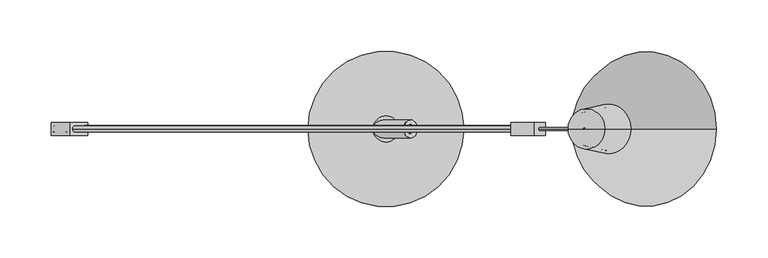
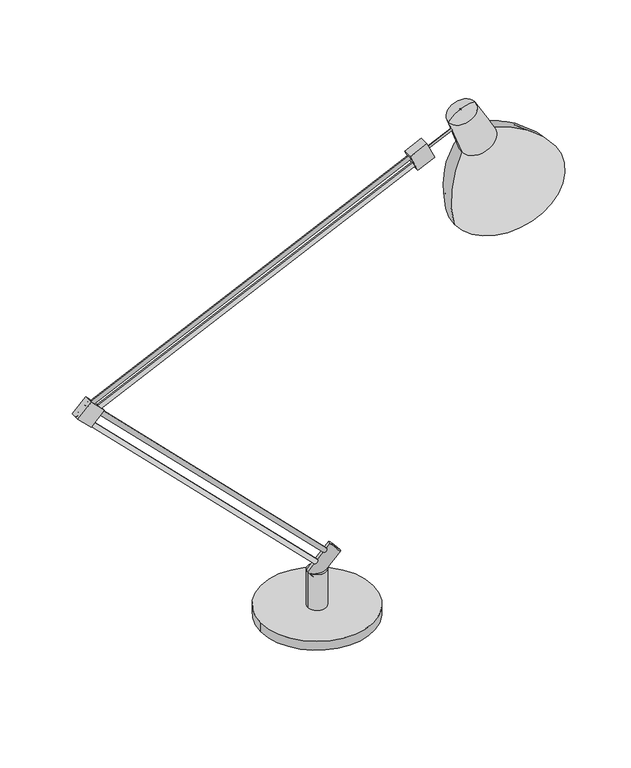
"""IFC4 building model written with IfcOpenShell, lengths in millimetres: light fixture geometry, M_Lampada da tavolo Luxo : 100 watt Incandescente."""

from ifc_helpers import new_model, si_unit, point, frame, origin, origin_with_axes, origin_2d, place, context, project, spatial, polyline, circle_curve, ellipse_curve, trimmed, segment, composite_curve, outline, extrude, source, transform, mapped, element, save
from ifc_brep_helpers import plane_surface, cylinder_surface, revolved_surface, advanced_brep


def light_fixture_4844b612(model_context):
    return source(origin(), model_context, "Body", "SolidModel", [
        advanced_brep(
        [(323.1317321, 0.0, 555.0810324), (186.1348137, 0.0, 491.1983202), (195.9295385, 0.0, 591.5959935), (239.9267246, 0.0, 612.1122183), (321.1881543, 0.0, 553.9589072), (188.2437192, 0.0, 491.965899), (237.1689067, 0.0, 610.5199914), (198.9219463, 0.0, 592.6851409), (211.7689067, 0.0, 654.5140819), (181.547323, 0.0, 640.421526), (195.4961647, 0.0, 651.5995573), (194.2398953, 0.0, 651.0137493), (194.5181424, 0.0, 653.6969331), (193.2618729, 0.0, 653.111125), (213.940532, 0.0, 657.1216244), (178.1539358, 0.0, 640.4340605)],
        [
            (0, 1, circle_curve(frame((254.6332729, 0.0, 523.1396763), z_axis=(-0.4226182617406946, 0.0, 0.9063077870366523), x_axis=(-0.9063077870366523, 0.0, -0.4226182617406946)), 75.5796874)),
            (1, 2, circle_curve(frame((334.1432405, 0.0, 527.4353443), z_axis=(0.0, 1.0, 0.0), x_axis=(1.0, 0.0, 0.0)), 152.3798423)),
            (2, 3, circle_curve(frame((217.9281316, 0.0, 601.8541059), z_axis=(0.4226182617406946, 0.0, -0.9063077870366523), x_axis=(-0.9063077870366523, 0.0, -0.4226182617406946)), 24.2727619)),
            (3, 0, circle_curve(frame((200.2345783, 0.0, 464.9927096), z_axis=(0.0, 1.0, 0.0), x_axis=(-0.6427876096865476, 0.0, -0.7660444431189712)), 152.3798423)),
            (1, 0, circle_curve(frame((254.6332729, 0.0, 523.1396763), z_axis=(-0.4226182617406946, 0.0, 0.9063077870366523), x_axis=(-0.9063077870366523, 0.0, -0.4226182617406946)), 75.5796874)),
            (3, 2, circle_curve(frame((217.9281316, 0.0, 601.8541059), z_axis=(0.4226182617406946, 0.0, -0.9063077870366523), x_axis=(-0.9063077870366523, 0.0, -0.4226182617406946)), 24.2727619)),
            (4, 5, circle_curve(frame((254.7159368, 0.0, 522.9624031), z_axis=(-0.4226182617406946, 0.0, 0.9063077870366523), x_axis=(-0.9063077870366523, 0.0, -0.4226182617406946)), 73.3439771)),
            (5, 1),
            (0, 4),
            (5, 4, circle_curve(frame((254.7159368, 0.0, 522.9624031), z_axis=(-0.4226182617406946, 0.0, 0.9063077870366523), x_axis=(-0.9063077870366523, 0.0, -0.4226182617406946)), 73.3439771)),
            (6, 7, circle_curve(frame((218.0454265, 0.0, 601.6025661), z_axis=(-0.4226182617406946, 0.0, 0.9063077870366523), x_axis=(-0.9063077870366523, 0.0, -0.4226182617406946)), 21.1004258)),
            (7, 5, circle_curve(frame((336.5004074, 0.0, 527.1734369), z_axis=(0.0, -1.0, 0.0), x_axis=(1.0, 0.0, 0.0)), 152.3798423)),
            (4, 6, circle_curve(frame((198.9200533, 0.0, 463.0186641), z_axis=(0.0, -1.0, 0.0), x_axis=(-0.6427876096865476, 0.0, -0.7660444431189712)), 152.3798423)),
            (7, 6, circle_curve(frame((218.0454265, 0.0, 601.6025661), z_axis=(-0.4226182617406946, 0.0, 0.9063077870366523), x_axis=(-0.9063077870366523, 0.0, -0.4226182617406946)), 21.1004258)),
            (8, 9, circle_curve(frame((196.6581149, 0.0, 647.4678039), z_axis=(-0.4226182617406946, 0.0, 0.9063077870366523), x_axis=(-0.9063077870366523, 0.0, -0.4226182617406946)), 16.672914)),
            (9, 7),
            (6, 8),
            (9, 8, circle_curve(frame((196.6581149, 0.0, 647.4678039), z_axis=(-0.4226182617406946, 0.0, 0.9063077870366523), x_axis=(-0.9063077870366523, 0.0, -0.4226182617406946)), 16.672914)),
            (10, 11, circle_curve(frame((194.86803, 0.0, 651.3066533), z_axis=(-0.4226182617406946, 0.0, 0.9063077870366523), x_axis=(-0.9063077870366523, 0.0, -0.4226182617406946)), 0.69307)),
            (11, 9, circle_curve(frame((201.2583854, 0.0, 629.7027384), z_axis=(0.0, -1.0, 0.0), x_axis=(1.0, 0.0, 0.0)), 22.4369871)),
            (8, 10, circle_curve(frame((207.3099477, 0.0, 632.5246282), z_axis=(0.0, -1.0, 0.0), x_axis=(-0.6427876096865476, 0.0, -0.7660444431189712)), 22.4369871)),
            (11, 10, circle_curve(frame((194.86803, 0.0, 651.3066533), z_axis=(-0.4226182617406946, 0.0, 0.9063077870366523), x_axis=(-0.9063077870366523, 0.0, -0.4226182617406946)), 0.69307)),
            (12, 13, circle_curve(frame((193.8900076, 0.0, 653.404029), z_axis=(-0.4226182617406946, 0.0, 0.9063077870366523), x_axis=(-0.9063077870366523, 0.0, -0.4226182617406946)), 0.69307)),
            (13, 11),
            (10, 12),
            (13, 12, circle_curve(frame((193.8900076, 0.0, 653.404029), z_axis=(-0.4226182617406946, 0.0, 0.9063077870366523), x_axis=(-0.9063077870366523, 0.0, -0.4226182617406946)), 0.69307)),
            (14, 15, circle_curve(frame((196.0472339, 0.0, 648.7778424), z_axis=(-0.4226182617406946, 0.0, 0.9063077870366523), x_axis=(-0.9063077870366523, 0.0, -0.4226182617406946)), 19.74307)),
            (15, 13, circle_curve(frame((205.2310579, 0.0, 623.5058043), z_axis=(0.0, 1.0, 0.0), x_axis=(1.0, 0.0, 0.0)), 31.9333118)),
            (12, 14, circle_curve(frame((209.5034899, 0.0, 625.4980721), z_axis=(0.0, 1.0, 0.0), x_axis=(-0.6427876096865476, 0.0, -0.7660444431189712)), 31.9333118)),
            (15, 14, circle_curve(frame((196.0472339, 0.0, 648.7778424), z_axis=(-0.4226182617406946, 0.0, 0.9063077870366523), x_axis=(-0.9063077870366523, 0.0, -0.4226182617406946)), 19.74307)),
            (2, 15),
            (14, 3),
        ],
        [
            revolved_surface(trimmed(ellipse_curve(frame((334.1432405, 0.0, 527.4353443), z_axis=(0.0, -1.0, 0.0), x_axis=(1.0, 0.0, 0.0)), 152.3798423, 152.3798423), [point((195.9295385, 0.0, 591.5959935))], [point((186.1348137, 0.0, 491.1983202))], True, "CARTESIAN"), (147.4850388, 0.0, 752.9198057), (0.4226182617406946, 0.0, -0.9063077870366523)),
            revolved_surface(polyline([(186.1348137, 0.0, 491.1983202), (188.2437192, 0.0, 491.965899)]), (147.4850388, 0.0, 752.9198057), (0.4226182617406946, 0.0, -0.9063077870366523)),
            revolved_surface(trimmed(ellipse_curve(frame((336.5004074, 0.0, 527.1734369), z_axis=(0.0, 1.0, 0.0), x_axis=(1.0, 0.0, 0.0)), 152.3798423, 152.3798423), [point((188.2437192, 0.0, 491.965899))], [point((198.9219463, 0.0, 592.6851409))], True, "CARTESIAN"), (147.4850388, 0.0, 752.9198057), (0.4226182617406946, 0.0, -0.9063077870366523)),
            revolved_surface(polyline([(198.9219463, 0.0, 592.6851409), (181.547323, 0.0, 640.421526)]), (147.4850388, 0.0, 752.9198057), (0.4226182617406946, 0.0, -0.9063077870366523)),
            revolved_surface(trimmed(ellipse_curve(frame((201.2583854, 0.0, 629.7027384), z_axis=(0.0, 1.0, 0.0), x_axis=(1.0, 0.0, 0.0)), 22.4369871, 22.4369871), [point((181.547323, 0.0, 640.421526))], [point((194.2398953, 0.0, 651.0137493))], True, "CARTESIAN"), (147.4850388, 0.0, 752.9198057), (0.4226182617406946, 0.0, -0.9063077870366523)),
            revolved_surface(polyline([(194.23989521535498, 0.0, 651.0137492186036), (193.26187283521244, 0.0, 653.1111249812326)]), (147.4850388, 0.0, 752.9198057), (0.4226182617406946, 0.0, -0.9063077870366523)),
            revolved_surface(trimmed(ellipse_curve(frame((205.2310579, 0.0, 623.5058043), z_axis=(0.0, -1.0, 0.0), x_axis=(1.0, 0.0, 0.0)), 31.9333118, 31.9333118), [point((193.2618729, 0.0, 653.111125))], [point((178.1539358, 0.0, 640.4340605))], True, "CARTESIAN"), (147.4850388, 0.0, 752.9198057), (0.4226182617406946, 0.0, -0.9063077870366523)),
            revolved_surface(polyline([(178.1539358, 0.0, 640.4340605), (195.9295385, 0.0, 591.5959935)]), (147.4850388, 0.0, 752.9198057), (0.4226182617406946, 0.0, -0.9063077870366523)),
        ],
        [
            (0, [[1, 2, 3, 4]]),
            (0, [[5, -4, 6, -2]]),
            (1, [[7, 8, -1, 9]]),
            (1, [[10, -9, -5, -8]]),
            (2, [[11, 12, -7, 13]]),
            (2, [[14, -13, -10, -12]]),
            (3, [[15, 16, -11, 17]]),
            (3, [[18, -17, -14, -16]]),
            (4, [[19, 20, -15, 21]]),
            (4, [[22, -21, -18, -20]]),
            (5, [[23, 24, -19, 25]]),
            (5, [[26, -25, -22, -24]]),
            (6, [[27, 28, -23, 29]]),
            (6, [[30, -29, -26, -28]]),
            (7, [[-3, 31, -27, 32]]),
            (7, [[-6, -32, -30, -31]]),
        ],
    ),
        advanced_brep(
        [(185.4701526, 0.0, 628.751947), (184.1283396, 0.0, 631.6294742), (184.7992461, 0.0, 630.1907106), (150.9398259, 0.0, 612.6501912), (149.5980129, 0.0, 615.5277185), (150.2689194, 0.0, 614.0889548)],
        [
            (0, 1, circle_curve(frame((184.7992461, 0.0, 630.1907106), z_axis=(0.9063077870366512, 0.0, 0.4226182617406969), x_axis=(-0.4226182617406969, 0.0, 0.9063077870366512)), 1.5875)),
            (1, 2),
            (2, 0),
            (1, 0, circle_curve(frame((184.7992461, 0.0, 630.1907106), z_axis=(0.9063077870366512, 0.0, 0.4226182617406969), x_axis=(-0.4226182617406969, 0.0, 0.9063077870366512)), 1.5875)),
            (3, 4, circle_curve(frame((150.2689194, 0.0, 614.0889548), z_axis=(0.9063077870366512, 0.0, 0.4226182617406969), x_axis=(-0.4226182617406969, 0.0, 0.9063077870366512)), 1.5875)),
            (4, 1),
            (0, 3),
            (4, 3, circle_curve(frame((150.2689194, 0.0, 614.0889548), z_axis=(0.9063077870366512, 0.0, 0.4226182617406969), x_axis=(-0.4226182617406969, 0.0, 0.9063077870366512)), 1.5875)),
            (5, 4),
            (3, 5),
        ],
        [
            plane_surface(frame((184.7992461, 0.0, 630.1907106), z_axis=(0.9063077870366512, 0.0, 0.4226182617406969), x_axis=(-0.4226182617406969, 0.0, 0.9063077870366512))),
            cylinder_surface(frame((189.6922676, 0.0, 632.472364), z_axis=(-0.9063077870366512, 0.0, -0.4226182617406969), x_axis=(-0.4226182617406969, 0.0, 0.9063077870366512)), 1.5875),
            plane_surface(frame((150.2689194, 0.0, 614.0889548), z_axis=(-0.9063077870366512, 0.0, -0.4226182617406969), x_axis=(-0.4226182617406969, 0.0, 0.9063077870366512))),
        ],
        [
            (0, [[1, 2, 3]]),
            (0, [[4, -3, -2]]),
            (1, [[5, 6, -1, 7]]),
            (1, [[8, -7, -4, -6]]),
            (2, [[9, -5, 10]]),
            (2, [[-10, -8, -9]]),
        ],
    ),
        extrude(outline(polyline([(0.0, -25.1467906), (0.0, 0.0), (12.7, 0.0), (12.7, -25.1467906), (0.0, -25.1467906)])), frame((133.1279926, -6.35, 591.3454151), z_axis=(-0.42261826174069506, 0.0, 0.906307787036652), x_axis=(0.0, 1.0, 0.0)), (0.0, 0.0, 1.0), 25.4),
        advanced_brep(
        [(141.620863, 0.0, 602.3121594), (142.9626776, 0.0, 599.4346289), (140.2790485, 0.0, 605.18969), (-297.1050895, 0.0, 401.2341168), (-294.4214605, 0.0, 395.4790558), (-295.763275, 0.0, 398.3565863)],
        [
            (0, 1),
            (1, 2, circle_curve(frame((141.620863, 0.0, 602.3121594), z_axis=(0.9063077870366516, 0.0, 0.42261826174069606), x_axis=(0.42261826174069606, 0.0, -0.9063077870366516)), 3.1750037)),
            (2, 0),
            (2, 1, circle_curve(frame((141.620863, 0.0, 602.3121594), z_axis=(0.9063077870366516, 0.0, 0.42261826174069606), x_axis=(0.42261826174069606, 0.0, -0.9063077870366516)), 3.1750037)),
            (3, 4, circle_curve(frame((-295.763275, 0.0, 398.3565863), z_axis=(-0.9063077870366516, 0.0, -0.42261826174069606), x_axis=(0.42261826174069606, 0.0, -0.9063077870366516)), 3.1750037)),
            (4, 5),
            (5, 3),
            (4, 3, circle_curve(frame((-295.763275, 0.0, 398.3565863), z_axis=(-0.9063077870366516, 0.0, -0.42261826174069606), x_axis=(0.42261826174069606, 0.0, -0.9063077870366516)), 3.1750037)),
            (1, 4),
            (3, 2),
        ],
        [
            plane_surface(frame((141.620863, 0.0, 602.3121594), z_axis=(0.9063077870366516, 0.0, 0.42261826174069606), x_axis=(0.42261826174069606, 0.0, -0.9063077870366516))),
            plane_surface(frame((-295.763275, 0.0, 398.3565863), z_axis=(-0.9063077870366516, 0.0, -0.42261826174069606), x_axis=(0.42261826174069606, 0.0, -0.9063077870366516))),
            cylinder_surface(frame((-295.763275, 0.0, 398.3565863), z_axis=(0.9063077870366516, 0.0, 0.42261826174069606), x_axis=(0.42261826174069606, 0.0, -0.9063077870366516)), 3.1750037),
        ],
        [
            (0, [[1, 2, 3]]),
            (0, [[-3, 4, -1]]),
            (1, [[5, 6, 7]]),
            (1, [[8, -7, -6]]),
            (2, [[-2, 9, -5, 10]]),
            (2, [[-4, -10, -8, -9]]),
        ],
    ),
        advanced_brep(
        [(134.5644626, 0.0, 609.7426468), (132.0426791, 0.0, 615.150629), (133.3035708, 0.0, 612.4466379), (-303.8038477, 0.0, 405.3281466), (-306.3256312, 0.0, 410.7361288), (-304.0805672, 0.0, 408.4910648)],
        [
            (0, 1, circle_curve(frame((133.3035708, 0.0, 612.4466379), z_axis=(0.9063077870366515, 0.0, 0.42261826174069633), x_axis=(-0.42261826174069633, 0.0, 0.9063077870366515)), 2.9835241)),
            (1, 2),
            (2, 0),
            (1, 0, circle_curve(frame((133.3035708, 0.0, 612.4466379), z_axis=(0.9063077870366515, 0.0, 0.42261826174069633), x_axis=(-0.42261826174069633, 0.0, 0.9063077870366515)), 2.9835241)),
            (3, 4, circle_curve(frame((-305.0647395, 0.0, 408.0321377), z_axis=(0.9063077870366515, 0.0, 0.42261826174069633), x_axis=(-0.42261826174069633, 0.0, 0.9063077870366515)), 2.9835241)),
            (4, 1),
            (0, 3),
            (4, 3, circle_curve(frame((-305.0647395, 0.0, 408.0321377), z_axis=(0.9063077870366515, 0.0, 0.42261826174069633), x_axis=(-0.42261826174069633, 0.0, 0.9063077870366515)), 2.9835241)),
            (5, 4),
            (3, 5),
        ],
        [
            plane_surface(frame((133.3035708, 0.0, 612.4466379), z_axis=(0.9063077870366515, 0.0, 0.42261826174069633), x_axis=(-0.42261826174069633, 0.0, 0.9063077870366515))),
            cylinder_surface(frame((-307.9453985, 0.0, 406.6888643), z_axis=(-0.9063077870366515, 0.0, -0.42261826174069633), x_axis=(-0.42261826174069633, 0.0, 0.9063077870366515)), 2.9835241),
            revolved_surface(polyline([(-306.3256312, 0.0, 410.7361288), (-304.0805672, 0.0, 408.4910648)]), (-307.9453985, 0.0, 406.6888643), (-0.9063077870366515, 0.0, -0.42261826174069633)),
        ],
        [
            (0, [[1, 2, 3]]),
            (0, [[4, -3, -2]]),
            (1, [[5, 6, -1, 7]]),
            (1, [[8, -7, -4, -6]]),
            (2, [[9, -5, 10]]),
            (2, [[-10, -8, -9]]),
        ],
    ),
        extrude(outline(polyline([(0.0, -25.3999999), (0.0, 0.0), (12.7, 0.0), (12.7, -25.3999999), (0.0, -25.3999999)])), frame((-327.5068559, -6.35, 395.996329), z_axis=(0.7071067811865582, 0.0, 0.7071067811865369), x_axis=(0.0, 1.0, 0.0)), (0.0, 0.0, 1.0), 25.4),
        advanced_brep(
        [(8.2921221, 0.0, 84.4921221), (12.7822502, 0.0, 88.9822502), (10.5371861, 0.0, 86.7371861), (-315.0856816, 0.0, 407.8699257), (-310.5955535, 0.0, 412.3600538), (-312.8406175, 0.0, 410.1149898)],
        [
            (0, 1, circle_curve(frame((10.5371861, 0.0, 86.7371861), z_axis=(0.7071067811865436, 0.0, -0.7071067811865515), x_axis=(0.7071067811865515, 0.0, 0.7071067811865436)), 3.175)),
            (1, 2),
            (2, 0),
            (1, 0, circle_curve(frame((10.5371861, 0.0, 86.7371861), z_axis=(0.7071067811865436, 0.0, -0.7071067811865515), x_axis=(0.7071067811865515, 0.0, 0.7071067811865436)), 3.175)),
            (3, 4, circle_curve(frame((-312.8406175, 0.0, 410.1149898), z_axis=(0.7071067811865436, 0.0, -0.7071067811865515), x_axis=(0.7071067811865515, 0.0, 0.7071067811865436)), 3.175)),
            (4, 1),
            (0, 3),
            (4, 3, circle_curve(frame((-312.8406175, 0.0, 410.1149898), z_axis=(0.7071067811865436, 0.0, -0.7071067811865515), x_axis=(0.7071067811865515, 0.0, 0.7071067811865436)), 3.175)),
            (5, 4),
            (3, 5),
        ],
        [
            plane_surface(frame((10.5371861, 0.0, 86.7371861), z_axis=(0.7071067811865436, 0.0, -0.7071067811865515), x_axis=(0.7071067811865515, 0.0, 0.7071067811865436))),
            cylinder_surface(frame((13.7727964, 0.0, 83.5015758), z_axis=(-0.7071067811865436, 0.0, 0.7071067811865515), x_axis=(0.7071067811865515, 0.0, 0.7071067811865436)), 3.175),
            plane_surface(frame((-312.8406175, 0.0, 410.1149898), z_axis=(-0.7071067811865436, 0.0, 0.7071067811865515), x_axis=(0.7071067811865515, 0.0, 0.7071067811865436))),
        ],
        [
            (0, [[1, 2, 3]]),
            (0, [[4, -3, -2]]),
            (1, [[5, 6, -1, 7]]),
            (1, [[8, -7, -4, -6]]),
            (2, [[9, -5, 10]]),
            (2, [[-10, -8, -9]]),
        ],
    ),
        advanced_brep(
        [(0.2724925, 0.0, 77.1972367), (-4.2176356, 0.0, 72.7071087), (-327.5068559, 0.0, 395.996329), (-323.0167279, 0.0, 400.4864571), (-1.9725715, 0.0, 74.9521727), (-325.2617919, 0.0, 398.2413931)],
        [
            (0, 1, circle_curve(frame((-1.9725715, 0.0, 74.9521727), z_axis=(-0.70710678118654, 0.0, 0.707106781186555), x_axis=(-0.707106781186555, 0.0, -0.70710678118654)), 3.175)),
            (1, 2),
            (2, 3, circle_curve(frame((-325.2617919, 0.0, 398.2413931), z_axis=(0.70710678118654, 0.0, -0.707106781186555), x_axis=(-0.707106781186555, 0.0, -0.70710678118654)), 3.175)),
            (3, 0),
            (1, 0, circle_curve(frame((-1.9725715, 0.0, 74.9521727), z_axis=(-0.70710678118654, 0.0, 0.707106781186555), x_axis=(-0.707106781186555, 0.0, -0.70710678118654)), 3.175)),
            (3, 2, circle_curve(frame((-325.2617919, 0.0, 398.2413931), z_axis=(0.70710678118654, 0.0, -0.707106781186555), x_axis=(-0.707106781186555, 0.0, -0.70710678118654)), 3.175)),
            (4, 1),
            (0, 4),
            (2, 5),
            (5, 3),
        ],
        [
            cylinder_surface(frame((-1.9725715, 0.0, 74.9521727), z_axis=(0.70710678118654, 0.0, -0.707106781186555), x_axis=(-0.707106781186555, 0.0, -0.70710678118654)), 3.175),
            plane_surface(frame((-1.9725715, 0.0, 74.9521727), z_axis=(0.70710678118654, 0.0, -0.707106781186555), x_axis=(-0.707106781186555, 0.0, -0.70710678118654))),
            plane_surface(frame((-325.2617919, 0.0, 398.2413931), z_axis=(-0.70710678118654, 0.0, 0.707106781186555), x_axis=(-0.707106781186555, 0.0, -0.70710678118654))),
        ],
        [
            (0, [[1, 2, 3, 4]]),
            (0, [[5, -4, 6, -2]]),
            (1, [[7, -1, 8]]),
            (1, [[-8, -5, -7]]),
            (2, [[-3, 9, 10]]),
            (2, [[-6, -10, -9]]),
        ],
    ),
        advanced_brep(
        [(0.0, 0.0, 50.8), (-12.7, 0.0, 63.5), (17.6083644, 0.0, 93.8083644), (30.3083644, 0.0, 81.1083644), (0.0, 0.0, 57.5351921), (-5.9648079, 0.0, 63.5), (26.9407684, 0.0, 84.4759605), (20.9759605, 0.0, 90.4407684)],
        [
            (0, 1, circle_curve(frame((-6.35, 0.0, 57.15), z_axis=(0.7071067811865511, 0.0, 0.707106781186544), x_axis=(-0.707106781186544, 0.0, 0.7071067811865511)), 8.9802561)),
            (1, 2),
            (2, 3, circle_curve(frame((23.9583644, 0.0, 87.4583644), z_axis=(-0.7071067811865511, 0.0, -0.707106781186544), x_axis=(-0.707106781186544, 0.0, 0.7071067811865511)), 8.9802561)),
            (3, 0),
            (1, 0, circle_curve(frame((-6.35, 0.0, 57.15), z_axis=(0.7071067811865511, 0.0, 0.707106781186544), x_axis=(-0.707106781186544, 0.0, 0.7071067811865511)), 8.9802561)),
            (3, 2, circle_curve(frame((23.9583644, 0.0, 87.4583644), z_axis=(-0.7071067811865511, 0.0, -0.707106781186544), x_axis=(-0.707106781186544, 0.0, 0.7071067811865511)), 8.9802561)),
            (4, 5, circle_curve(frame((-2.982404, 0.0, 60.517596), z_axis=(0.7071067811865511, 0.0, 0.707106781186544), x_axis=(-0.707106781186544, 0.0, 0.7071067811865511)), 4.2177561)),
            (5, 1),
            (0, 4),
            (5, 4, circle_curve(frame((-2.982404, 0.0, 60.517596), z_axis=(0.7071067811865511, 0.0, 0.707106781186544), x_axis=(-0.707106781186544, 0.0, 0.7071067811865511)), 4.2177561)),
            (6, 7, circle_curve(frame((23.9583644, 0.0, 87.4583644), z_axis=(0.7071067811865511, 0.0, 0.707106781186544), x_axis=(-0.707106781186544, 0.0, 0.7071067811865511)), 4.2177561)),
            (7, 5),
            (4, 6),
            (7, 6, circle_curve(frame((23.9583644, 0.0, 87.4583644), z_axis=(0.7071067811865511, 0.0, 0.707106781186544), x_axis=(-0.707106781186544, 0.0, 0.7071067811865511)), 4.2177561)),
            (2, 7),
            (6, 3),
        ],
        [
            cylinder_surface(frame((-24.3105122, 0.0, 39.1894878), z_axis=(-0.7071067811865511, 0.0, -0.707106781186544), x_axis=(-0.707106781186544, 0.0, 0.7071067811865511)), 8.9802561),
            revolved_surface(polyline([(-12.7, 0.0, 63.5), (-5.9648079, 0.0, 63.5)]), (-24.3105122, 0.0, 39.1894878), (-0.7071067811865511, 0.0, -0.707106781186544)),
            revolved_surface(polyline([(-5.964807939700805, 0.0, 63.49999993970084), (20.975960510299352, 0.0, 90.44076838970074)]), (-24.3105122, 0.0, 39.1894878), (-0.7071067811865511, 0.0, -0.707106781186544)),
            plane_surface(frame((23.9583644, 0.0, 87.4583644), z_axis=(0.7071067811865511, 0.0, 0.707106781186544), x_axis=(-0.707106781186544, 0.0, 0.7071067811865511))),
        ],
        [
            (0, [[1, 2, 3, 4]]),
            (0, [[5, -4, 6, -2]]),
            (1, [[7, 8, -1, 9]]),
            (1, [[10, -9, -5, -8]]),
            (2, [[11, 12, -7, 13]]),
            (2, [[14, -13, -10, -12]]),
            (3, [[-3, 15, -11, 16]]),
            (3, [[-6, -16, -14, -15]]),
        ],
    ),
        advanced_brep(
        [(12.7, 0.0, 12.7), (-12.7, 0.0, 12.7), (-12.7, 0.0, 63.5), (12.7, 0.0, 63.5), (0.0, 0.0, 12.7), (0.0, 0.0, 63.5)],
        [
            (0, 1, circle_curve(frame((0.0, 0.0, 12.7), z_axis=(0.0, 0.0, 1.0), x_axis=(-1.0, 0.0, 0.0)), 12.7)),
            (1, 2),
            (2, 3, circle_curve(frame((0.0, 0.0, 63.5), z_axis=(0.0, 0.0, -1.0), x_axis=(-1.0, 0.0, 0.0)), 12.7)),
            (3, 0),
            (1, 0, circle_curve(frame((0.0, 0.0, 12.7), z_axis=(0.0, 0.0, 1.0), x_axis=(-1.0, 0.0, 0.0)), 12.7)),
            (3, 2, circle_curve(frame((0.0, 0.0, 63.5), z_axis=(0.0, 0.0, -1.0), x_axis=(-1.0, 0.0, 0.0)), 12.7)),
            (4, 1),
            (0, 4),
            (2, 5),
            (5, 3),
        ],
        [
            cylinder_surface(frame((0.0, 0.0, 215.9), z_axis=(0.0, 0.0, -1.0), x_axis=(-1.0, 0.0, 0.0)), 12.7),
            plane_surface(frame((0.0, 0.0, 12.7), z_axis=(0.0, 0.0, -1.0), x_axis=(-1.0, 0.0, 0.0))),
            plane_surface(frame((0.0, 0.0, 63.5), z_axis=(0.0, 0.0, 1.0), x_axis=(-1.0, 0.0, 0.0))),
        ],
        [
            (0, [[1, 2, 3, 4]]),
            (0, [[5, -4, 6, -2]]),
            (1, [[7, -1, 8]]),
            (1, [[-8, -5, -7]]),
            (2, [[-3, 9, 10]]),
            (2, [[-6, -10, -9]]),
        ],
    ),
        extrude(outline(composite_curve([segment(trimmed(circle_curve(origin_2d(), 76.2), [point((-76.2, 0.0))], [point((76.2, 0.0))], False, "CARTESIAN"), True, "CONTINUOUS"), segment(trimmed(circle_curve(origin_2d(), 76.2), [point((76.2, 0.0))], [point((-76.2, 0.0))], False, "CARTESIAN"), True, "CONTINUOUS")], self_intersect=False)), origin_with_axes(), (0.0, 0.0, 1.0), 12.7),
    ])


if __name__ == "__main__":
    model = new_model("IFC4")
    model_context = context("Model", 3, world=origin())
    ifc_project = project(units=[si_unit("LENGTHUNIT", "METRE", prefix="MILLI")], contexts=[model_context])
    site = spatial("IfcSite", under=ifc_project)
    building = spatial("IfcBuilding", under=site)
    placement = place(None, origin())
    light_fixture_shape = light_fixture_4844b612(model_context)
    element("IfcLightFixture", 1, ObjectType="M_Lampada da tavolo Luxo : 100 watt Incandescente", at=placement, inside=building, context=model_context, shape_type="MappedRepresentation", body=[
        mapped(light_fixture_shape, transform((0.0, 0.0, 0.0), x_axis=(1.0, 0.0, 0.0), y_axis=(0.0, 1.0, 0.0), z_axis=(0.0, 0.0, 1.0))),
    ])
    save(model, "model.ifc")
